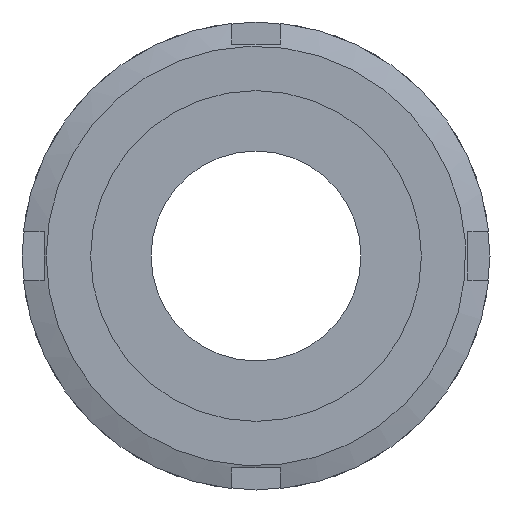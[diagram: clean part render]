
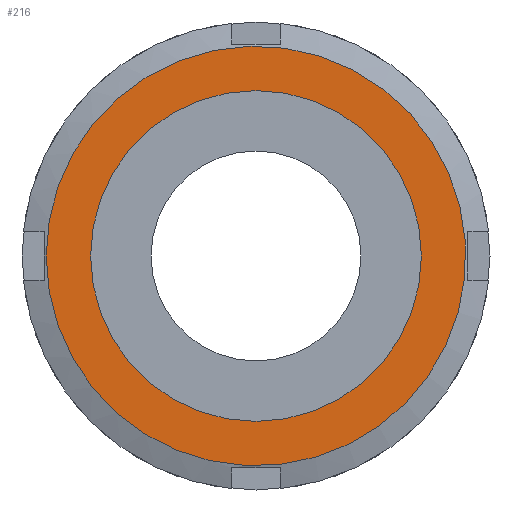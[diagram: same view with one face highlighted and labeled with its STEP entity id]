
A CAD part, left-side view. The second image highlights one B-rep face of the part: STEP entity #216.
In plain terms, the highlighted planar face has unit normal (-1, 0, 0) as drawn and (0, -1, 0) by its records, which use the part's own axes.
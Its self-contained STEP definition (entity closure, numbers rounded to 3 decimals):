
#216 = ADVANCED_FACE( '', ( #292, #293 ), #294, .F. );
#292 = FACE_BOUND( '', #447, .T. );
#293 = FACE_OUTER_BOUND( '', #448, .T. );
#294 = PLANE( '', #449 );
#447 = EDGE_LOOP( '', ( #660 ) );
#448 = EDGE_LOOP( '', ( #661 ) );
#449 = AXIS2_PLACEMENT_3D( '', #662, #663, #664 );
#660 = ORIENTED_EDGE( '', *, *, #1053, .F. );
#661 = ORIENTED_EDGE( '', *, *, #1054, .T. );
#662 = CARTESIAN_POINT( '', ( 26., 0., 0. ) );
#663 = DIRECTION( '', ( 0., 1., 0. ) );
#664 = DIRECTION( '', ( 0., 0., 1. ) );
#1053 = EDGE_CURVE( '', #1209, #1209, #1210, .T. );
#1054 = EDGE_CURVE( '', #1211, #1211, #1212, .T. );
#1209 = VERTEX_POINT( '', #1537 );
#1210 = CIRCLE( '', #1538, 20.5 );
#1211 = VERTEX_POINT( '', #1539 );
#1212 = CIRCLE( '', #1540, 26. );
#1537 = CARTESIAN_POINT( '', ( 0., 0., -20.5 ) );
#1538 = AXIS2_PLACEMENT_3D( '', #1815, #1816, #1817 );
#1539 = CARTESIAN_POINT( '', ( 0., 0., -26. ) );
#1540 = AXIS2_PLACEMENT_3D( '', #1818, #1819, #1820 );
#1815 = CARTESIAN_POINT( '', ( 0., 0., 0. ) );
#1816 = DIRECTION( '', ( 0., -1., 0. ) );
#1817 = DIRECTION( '', ( 0., 0., -1. ) );
#1818 = CARTESIAN_POINT( '', ( 0., 0., 0. ) );
#1819 = DIRECTION( '', ( 0., -1., 0. ) );
#1820 = DIRECTION( '', ( 0., 0., -1. ) );
